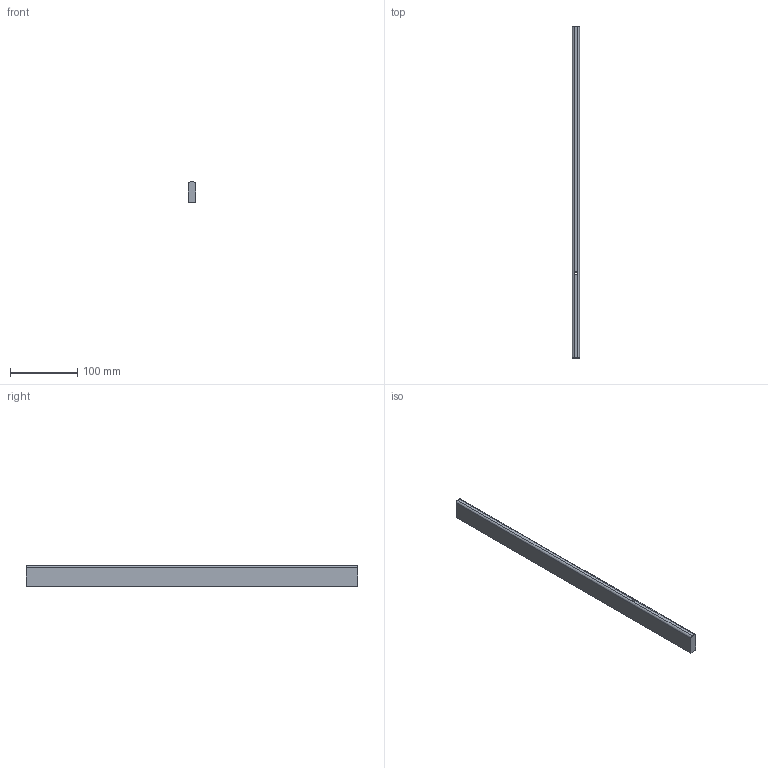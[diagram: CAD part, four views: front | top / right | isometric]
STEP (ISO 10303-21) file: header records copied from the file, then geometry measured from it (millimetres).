
FILE_DESCRIPTION (( 'STEP AP214' ), '1' );
FILE_NAME ('_Seitenreling_SP60702400_RL495.step', '2010-09-06T14:52:10', ( 'grass' ), ( '' ), 'SwSTEP 2.0', 'SolidWorks 2010', '' );
FILE_SCHEMA (( 'AUTOMOTIVE_DESIGN' ));
Length unit declared in the file: millimetre
Products named in the file (1): _Seitenreling_SP60702400_RL495
Bounding box: 10.5 x 495 x 30 mm (x, y, z)
Volume: 153093.9 mm3; surface area: 39980.9 mm2
Topology: 1 solids, 1 shells, 14 faces, 34 edges, 22 vertices
Faces by surface type: plane 8, cylinder 6
Entity records: 454 total; most frequent: DIRECTION 78, CARTESIAN_POINT 71, ORIENTED_EDGE 68, EDGE_CURVE 34, AXIS2_PLACEMENT_3D 29, VERTEX_POINT 22, VECTOR 20, LINE 20
